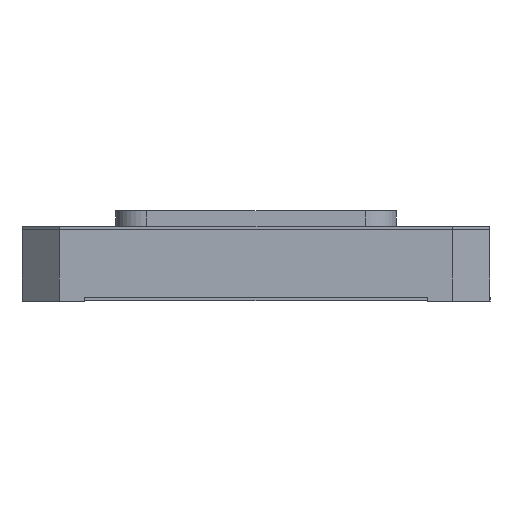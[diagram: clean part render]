
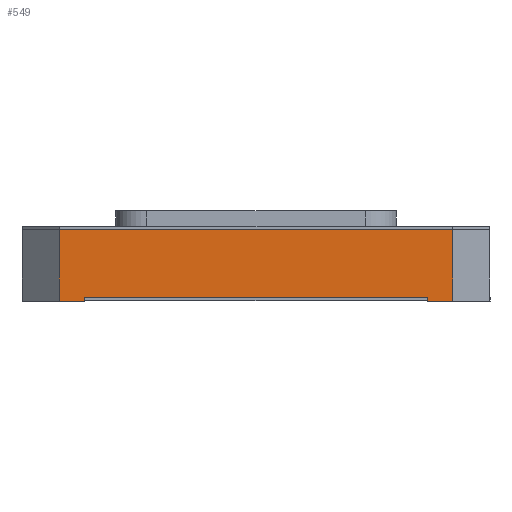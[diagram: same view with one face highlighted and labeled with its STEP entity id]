
A CAD part, left-side view. The second image highlights one B-rep face of the part: STEP entity #549.
In plain terms, the highlighted planar face has unit normal (-1, 0, 0).
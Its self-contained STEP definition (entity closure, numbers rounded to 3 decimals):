
#300 = CARTESIAN_POINT ( 'NONE',  ( -75., -55., 1.2 ) ) ;
#533 = VERTEX_POINT ( 'NONE', #6993 ) ;
#549 = ADVANCED_FACE ( 'NONE', ( #27254 ), #3815, .F. ) ;
#851 = CARTESIAN_POINT ( 'NONE',  ( -75., 75., 23. ) ) ;
#937 = CARTESIAN_POINT ( 'NONE',  ( -75., 55., 1.2 ) ) ;
#1336 = CARTESIAN_POINT ( 'NONE',  ( -75., 63., 23. ) ) ;
#1473 = CARTESIAN_POINT ( 'NONE',  ( -75., -63., 0. ) ) ;
#2157 = CARTESIAN_POINT ( 'NONE',  ( -75., 75., 0. ) ) ;
#2581 = VERTEX_POINT ( 'NONE', #937 ) ;
#2860 = LINE ( 'NONE', #1336, #14077 ) ;
#3049 = VERTEX_POINT ( 'NONE', #12967 ) ;
#3195 = VECTOR ( 'NONE', #3312, 1000. ) ;
#3312 = DIRECTION ( 'NONE',  ( 0., -1., 0. ) ) ;
#3815 = PLANE ( 'NONE',  #22109 ) ;
#5259 = VERTEX_POINT ( 'NONE', #27231 ) ;
#5396 = VERTEX_POINT ( 'NONE', #14217 ) ;
#6362 = CARTESIAN_POINT ( 'NONE',  ( -75., 75., 1.2 ) ) ;
#6841 = ORIENTED_EDGE ( 'NONE', *, *, #16342, .F. ) ;
#6993 = CARTESIAN_POINT ( 'NONE',  ( -75., -55., 1.2 ) ) ;
#7337 = VERTEX_POINT ( 'NONE', #1473 ) ;
#7408 = EDGE_CURVE ( 'NONE', #3049, #5396, #20040, .T. ) ;
#7471 = CARTESIAN_POINT ( 'NONE',  ( -75., 55., 1.2 ) ) ;
#8167 = EDGE_CURVE ( 'NONE', #2581, #5396, #18936, .T. ) ;
#8342 = VECTOR ( 'NONE', #10417, 1000. ) ;
#8395 = VERTEX_POINT ( 'NONE', #15464 ) ;
#9398 = CARTESIAN_POINT ( 'NONE',  ( -75., 75., 0. ) ) ;
#9661 = DIRECTION ( 'NONE',  ( 0., 1., 0. ) ) ;
#9705 = LINE ( 'NONE', #851, #25892 ) ;
#9818 = ORIENTED_EDGE ( 'NONE', *, *, #15808, .T. ) ;
#9964 = ORIENTED_EDGE ( 'NONE', *, *, #17041, .T. ) ;
#10417 = DIRECTION ( 'NONE',  ( 0., -1., 0. ) ) ;
#12967 = CARTESIAN_POINT ( 'NONE',  ( -75., 63., 0. ) ) ;
#13071 = LINE ( 'NONE', #300, #18087 ) ;
#13782 = DIRECTION ( 'NONE',  ( 1., 0., 0. ) ) ;
#14077 = VECTOR ( 'NONE', #23931, 1000. ) ;
#14217 = CARTESIAN_POINT ( 'NONE',  ( -75., 55., 0. ) ) ;
#15404 = LINE ( 'NONE', #6362, #26573 ) ;
#15464 = CARTESIAN_POINT ( 'NONE',  ( -75., 63., 23. ) ) ;
#15808 = EDGE_CURVE ( 'NONE', #533, #26881, #13071, .T. ) ;
#15877 = DIRECTION ( 'NONE',  ( 0., 0., 1. ) ) ;
#16342 = EDGE_CURVE ( 'NONE', #8395, #5259, #9705, .T. ) ;
#16440 = CARTESIAN_POINT ( 'NONE',  ( -75., -63., 23. ) ) ;
#16486 = DIRECTION ( 'NONE',  ( 0., 0., -1. ) ) ;
#17041 = EDGE_CURVE ( 'NONE', #26881, #7337, #25193, .T. ) ;
#17184 = EDGE_CURVE ( 'NONE', #7337, #5259, #24839, .T. ) ;
#18018 = ORIENTED_EDGE ( 'NONE', *, *, #17184, .T. ) ;
#18087 = VECTOR ( 'NONE', #19279, 1000. ) ;
#18936 = LINE ( 'NONE', #7471, #19930 ) ;
#19279 = DIRECTION ( 'NONE',  ( 0., 0., -1. ) ) ;
#19471 = ORIENTED_EDGE ( 'NONE', *, *, #24250, .F. ) ;
#19497 = DIRECTION ( 'NONE',  ( 0., 1., 0. ) ) ;
#19930 = VECTOR ( 'NONE', #16486, 1000. ) ;
#20040 = LINE ( 'NONE', #2157, #3195 ) ;
#20506 = ORIENTED_EDGE ( 'NONE', *, *, #21507, .T. ) ;
#21507 = EDGE_CURVE ( 'NONE', #8395, #3049, #2860, .T. ) ;
#22056 = EDGE_LOOP ( 'NONE', ( #25133, #19471, #9818, #9964, #18018, #6841, #20506, #26049 ) ) ;
#22109 = AXIS2_PLACEMENT_3D ( 'NONE', #27143, #13782, #9661 ) ;
#22493 = DIRECTION ( 'NONE',  ( 0., -1., 0. ) ) ;
#23931 = DIRECTION ( 'NONE',  ( 0., 0., -1. ) ) ;
#24179 = VECTOR ( 'NONE', #15877, 1000. ) ;
#24250 = EDGE_CURVE ( 'NONE', #533, #2581, #15404, .T. ) ;
#24839 = LINE ( 'NONE', #16440, #24179 ) ;
#25133 = ORIENTED_EDGE ( 'NONE', *, *, #8167, .F. ) ;
#25193 = LINE ( 'NONE', #9398, #8342 ) ;
#25892 = VECTOR ( 'NONE', #22493, 1000. ) ;
#26049 = ORIENTED_EDGE ( 'NONE', *, *, #7408, .T. ) ;
#26573 = VECTOR ( 'NONE', #19497, 1000. ) ;
#26778 = CARTESIAN_POINT ( 'NONE',  ( -75., -55., 0. ) ) ;
#26881 = VERTEX_POINT ( 'NONE', #26778 ) ;
#27143 = CARTESIAN_POINT ( 'NONE',  ( -75., 75., 23. ) ) ;
#27231 = CARTESIAN_POINT ( 'NONE',  ( -75., -63., 23. ) ) ;
#27254 = FACE_OUTER_BOUND ( 'NONE', #22056, .T. ) ;
